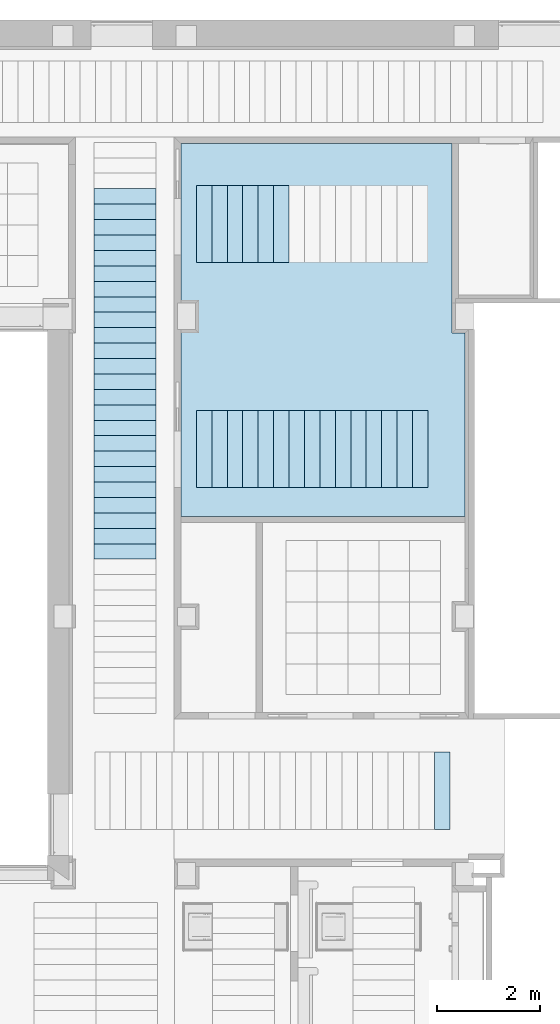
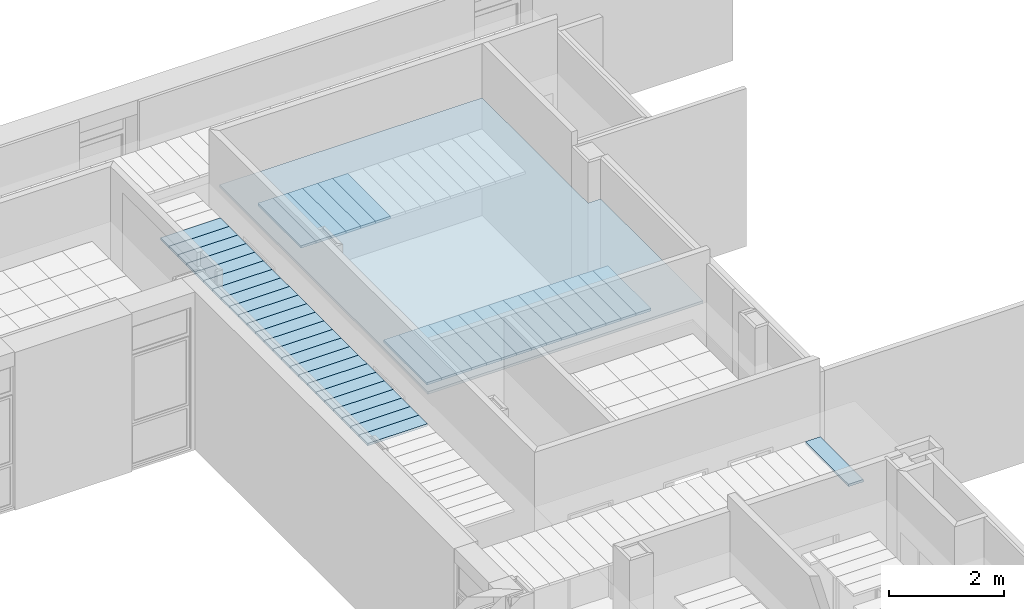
# One storey, part 12 of 60: 47 slabs.
"""IFC2X3 building model written with IfcOpenShell, lengths in millimetres."""

from ifc_helpers import new_model, entity, si_unit, converted_unit, derived_unit, money_unit, direction, frame, origin_with_axes, place, context, subcontext, project, spatial, polyline, outline, extrude, material, layer, layer_set, layer_usage, type_object, element, save


model = new_model("IFC2X3")

# Units and contexts
model_context = context("Model", 3, precision=0.01, world=origin_with_axes(), true_north=direction((0.0, 1.0)))
body_context = subcontext(model_context, "Body", "Model", "MODEL_VIEW")
ifc_project = project(units=[si_unit("LENGTHUNIT", "METRE", prefix="MILLI"), si_unit("AREAUNIT", "SQUARE_METRE"), si_unit("VOLUMEUNIT", "CUBIC_METRE"), converted_unit("PLANEANGLEUNIT", "DEGREE", entity("IfcPlaneAngleMeasure", 0.0174532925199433), si_unit("PLANEANGLEUNIT", "RADIAN"), dimensions=[0, 0, 0, 0, 0, 0, 0]), money_unit("USD"), converted_unit("TIMEUNIT", "Year", entity("IfcTimeMeasure", 31557600.0), si_unit("TIMEUNIT", "SECOND"), dimensions=[0, 0, 1, 0, 0, 0, 0]), si_unit("MASSUNIT", "GRAM", prefix="KILO"), si_unit("THERMODYNAMICTEMPERATUREUNIT", "DEGREE_CELSIUS"), si_unit("LUMINOUSINTENSITYUNIT", "LUMEN"), si_unit("ENERGYUNIT", "JOULE", prefix="MEGA"), derived_unit("THERMALCONDUCTANCEUNIT", [(si_unit("POWERUNIT", "WATT"), 1), (si_unit("LENGTHUNIT", "METRE"), -1), (si_unit("THERMODYNAMICTEMPERATUREUNIT", "KELVIN"), -1)]), derived_unit("SPECIFICHEATCAPACITYUNIT", [(si_unit("ENERGYUNIT", "JOULE"), 1), (si_unit("MASSUNIT", "GRAM", prefix="KILO"), -1), (si_unit("THERMODYNAMICTEMPERATUREUNIT", "KELVIN"), -1)]), derived_unit("MASSDENSITYUNIT", [(si_unit("MASSUNIT", "GRAM", prefix="KILO"), 1), (si_unit("VOLUMEUNIT", "CUBIC_METRE"), -1)])], contexts=[model_context])

# Site, building, storey
site_placement = place(None, origin_with_axes())
site = spatial("IfcSite", under=ifc_project, at=site_placement, Name="Sitio", CompositionType="ELEMENT")
building_placement = place(site_placement, origin_with_axes())
building = spatial("IfcBuilding", under=site, at=building_placement, Name="Construcción", CompositionType="ELEMENT")
storey_placement = place(building_placement, frame((0.0, 0.0, 3650.0), z_axis=(0.0, 0.0, 1.0), x_axis=(1.0, 0.0, 0.0)))
storey = spatial("IfcBuildingStorey", under=building, at=storey_placement, Name="PLANTA 2ª", CompositionType="ELEMENT", Elevation=3650.0)

# Slabs
ifc_material_1 = material(Name="ARQ_ME126_CelRas_Placa_Metallica")
ifc_layer_1 = layer(ifc_material_1, 50.0, ventilated="UNKNOWN")
ifc_layer_set_1 = layer_set([ifc_layer_1], Name="ARQ_ME126_CelRas_Placa_Metallica 50")
ifc_layer_usage_1 = layer_usage(ifc_layer_set_1, "AXIS3", "NEGATIVE", 50.0)
slab_type_1 = type_object("IfcSlabType", Name="ARQ_ME126_CelRas_Placa_Metallica 50", PredefinedType="NOTDEFINED")
slab_1_placement = place(storey_placement, frame((792.8909950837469, 1163.291547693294, 2500.0), z_axis=(0.0, 0.0, 1.0), x_axis=(1.0, 0.0, 0.0)))
element("IfcSlab", 1, at=slab_1_placement, inside=storey, type_object=slab_type_1, material=ifc_layer_usage_1, Name="SLA - 026", PredefinedType="NOTDEFINED", context=body_context, shape_type="SweptSolid", body=[
    extrude(outline(polyline([(0.0, 0.0), (0.0, -1500.0), (299.999999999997, -1500.0), (299.999999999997, 0.0), (0.0, 0.0)])), frame((0.0, 0.0, -50.0), z_axis=(0.0, 0.0, 1.0), x_axis=(1.0, 0.0, 0.0)), (0.0, 0.0, 1.0), 50.0),
])
ifc_layer_usage_2 = layer_usage(ifc_layer_set_1, "AXIS3", "NEGATIVE", 50.0)
slab_2_placement = place(storey_placement, frame((1092.890995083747, 1163.291547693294, 2500.0), z_axis=(0.0, 0.0, 1.0), x_axis=(1.0, 0.0, 0.0)))
element("IfcSlab", 2, at=slab_2_placement, inside=storey, type_object=slab_type_1, material=ifc_layer_usage_2, Name="SLA - 026", PredefinedType="NOTDEFINED", context=body_context, shape_type="SweptSolid", body=[
    extrude(outline(polyline([(0.0, 0.0), (0.0, -1500.0), (299.9999999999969, -1500.0), (299.9999999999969, 0.0), (0.0, 0.0)])), frame((0.0, 0.0, -50.0), z_axis=(0.0, 0.0, 1.0), x_axis=(1.0, 0.0, 0.0)), (0.0, 0.0, 1.0), 50.0),
])
ifc_layer_usage_3 = layer_usage(ifc_layer_set_1, "AXIS3", "NEGATIVE", 50.0)
slab_3_placement = place(storey_placement, frame((1692.890995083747, 1163.291547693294, 2500.0), z_axis=(0.0, 0.0, 1.0), x_axis=(1.0, 0.0, 0.0)))
element("IfcSlab", 3, at=slab_3_placement, inside=storey, type_object=slab_type_1, material=ifc_layer_usage_3, Name="SLA - 026", PredefinedType="NOTDEFINED", context=body_context, shape_type="SweptSolid", body=[
    extrude(outline(polyline([(0.0, 0.0), (0.0, -1500.0), (299.9999999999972, -1500.0), (299.9999999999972, 0.0), (0.0, 0.0)])), frame((0.0, 0.0, -50.0), z_axis=(0.0, 0.0, 1.0), x_axis=(1.0, 0.0, 0.0)), (0.0, 0.0, 1.0), 50.0),
])
ifc_layer_usage_4 = layer_usage(ifc_layer_set_1, "AXIS3", "NEGATIVE", 50.0)
slab_4_placement = place(storey_placement, frame((1392.890995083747, 1163.291547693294, 2500.0), z_axis=(0.0, 0.0, 1.0), x_axis=(1.0, 0.0, 0.0)))
element("IfcSlab", 4, at=slab_4_placement, inside=storey, type_object=slab_type_1, material=ifc_layer_usage_4, Name="SLA - 026", PredefinedType="NOTDEFINED", context=body_context, shape_type="SweptSolid", body=[
    extrude(outline(polyline([(0.0, 0.0), (0.0, -1500.0), (299.9999999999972, -1500.0), (299.9999999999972, 0.0), (0.0, 0.0)])), frame((0.0, 0.0, -50.0), z_axis=(0.0, 0.0, 1.0), x_axis=(1.0, 0.0, 0.0)), (0.0, 0.0, 1.0), 50.0),
])
ifc_layer_usage_5 = layer_usage(ifc_layer_set_1, "AXIS3", "NEGATIVE", 50.0)
slab_5_placement = place(storey_placement, frame((1992.890995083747, 1163.291547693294, 2500.0), z_axis=(0.0, 0.0, 1.0), x_axis=(1.0, 0.0, 0.0)))
element("IfcSlab", 5, at=slab_5_placement, inside=storey, type_object=slab_type_1, material=ifc_layer_usage_5, Name="SLA - 026", PredefinedType="NOTDEFINED", context=body_context, shape_type="SweptSolid", body=[
    extrude(outline(polyline([(0.0, 0.0), (0.0, -1500.0), (299.9999999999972, -1500.0), (299.9999999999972, 0.0), (0.0, 0.0)])), frame((0.0, 0.0, -50.0), z_axis=(0.0, 0.0, 1.0), x_axis=(1.0, 0.0, 0.0)), (0.0, 0.0, 1.0), 50.0),
])
ifc_layer_usage_6 = layer_usage(ifc_layer_set_1, "AXIS3", "NEGATIVE", 50.0)
slab_6_placement = place(storey_placement, frame((2292.890995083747, 1163.291547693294, 2500.0), z_axis=(0.0, 0.0, 1.0), x_axis=(1.0, 0.0, 0.0)))
element("IfcSlab", 6, at=slab_6_placement, inside=storey, type_object=slab_type_1, material=ifc_layer_usage_6, Name="SLA - 026", PredefinedType="NOTDEFINED", context=body_context, shape_type="SweptSolid", body=[
    extrude(outline(polyline([(0.0, 0.0), (0.0, -1500.0), (299.9999999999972, -1500.0), (299.9999999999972, 0.0), (0.0, 0.0)])), frame((0.0, 0.0, -50.0), z_axis=(0.0, 0.0, 1.0), x_axis=(1.0, 0.0, 0.0)), (0.0, 0.0, 1.0), 50.0),
])
ifc_layer_usage_7 = layer_usage(ifc_layer_set_1, "AXIS3", "NEGATIVE", 50.0)
slab_7_placement = place(storey_placement, frame((792.8909950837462, -3208.481340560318, 2250.0), z_axis=(0.0, 0.0, 1.0), x_axis=(1.0, 0.0, 0.0)))
element("IfcSlab", 7, at=slab_7_placement, inside=storey, type_object=slab_type_1, material=ifc_layer_usage_7, Name="SLA - 026", PredefinedType="NOTDEFINED", context=body_context, shape_type="SweptSolid", body=[
    extrude(outline(polyline([(0.0, 0.0), (0.0, -1500.0), (299.999999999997, -1500.0), (299.999999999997, 0.0), (0.0, 0.0)])), frame((0.0, 0.0, -50.0), z_axis=(0.0, 0.0, 1.0), x_axis=(1.0, 0.0, 0.0)), (0.0, 0.0, 1.0), 50.0),
])
ifc_layer_usage_8 = layer_usage(ifc_layer_set_1, "AXIS3", "NEGATIVE", 50.0)
slab_8_placement = place(storey_placement, frame((1092.890995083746, -3208.481340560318, 2250.0), z_axis=(0.0, 0.0, 1.0), x_axis=(1.0, 0.0, 0.0)))
element("IfcSlab", 8, at=slab_8_placement, inside=storey, type_object=slab_type_1, material=ifc_layer_usage_8, Name="SLA - 026", PredefinedType="NOTDEFINED", context=body_context, shape_type="SweptSolid", body=[
    extrude(outline(polyline([(0.0, 0.0), (0.0, -1500.0), (299.9999999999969, -1500.0), (299.9999999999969, 0.0), (0.0, 0.0)])), frame((0.0, 0.0, -50.0), z_axis=(0.0, 0.0, 1.0), x_axis=(1.0, 0.0, 0.0)), (0.0, 0.0, 1.0), 50.0),
])
ifc_layer_usage_9 = layer_usage(ifc_layer_set_1, "AXIS3", "NEGATIVE", 50.0)
slab_9_placement = place(storey_placement, frame((1392.890995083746, -3208.481340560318, 2250.0), z_axis=(0.0, 0.0, 1.0), x_axis=(1.0, 0.0, 0.0)))
element("IfcSlab", 9, at=slab_9_placement, inside=storey, type_object=slab_type_1, material=ifc_layer_usage_9, Name="SLA - 026", PredefinedType="NOTDEFINED", context=body_context, shape_type="SweptSolid", body=[
    extrude(outline(polyline([(0.0, 0.0), (0.0, -1500.0), (299.9999999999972, -1500.0), (299.9999999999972, 0.0), (0.0, 0.0)])), frame((0.0, 0.0, -50.0), z_axis=(0.0, 0.0, 1.0), x_axis=(1.0, 0.0, 0.0)), (0.0, 0.0, 1.0), 50.0),
])
ifc_layer_usage_10 = layer_usage(ifc_layer_set_1, "AXIS3", "NEGATIVE", 50.0)
slab_10_placement = place(storey_placement, frame((1692.890995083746, -3208.481340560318, 2250.0), z_axis=(0.0, 0.0, 1.0), x_axis=(1.0, 0.0, 0.0)))
element("IfcSlab", 10, at=slab_10_placement, inside=storey, type_object=slab_type_1, material=ifc_layer_usage_10, Name="SLA - 026", PredefinedType="NOTDEFINED", context=body_context, shape_type="SweptSolid", body=[
    extrude(outline(polyline([(0.0, 0.0), (0.0, -1500.0), (299.9999999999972, -1500.0), (299.9999999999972, 0.0), (0.0, 0.0)])), frame((0.0, 0.0, -50.0), z_axis=(0.0, 0.0, 1.0), x_axis=(1.0, 0.0, 0.0)), (0.0, 0.0, 1.0), 50.0),
])
ifc_layer_usage_11 = layer_usage(ifc_layer_set_1, "AXIS3", "NEGATIVE", 50.0)
slab_11_placement = place(storey_placement, frame((1992.890995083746, -3208.481340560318, 2250.0), z_axis=(0.0, 0.0, 1.0), x_axis=(1.0, 0.0, 0.0)))
element("IfcSlab", 11, at=slab_11_placement, inside=storey, type_object=slab_type_1, material=ifc_layer_usage_11, Name="SLA - 026", PredefinedType="NOTDEFINED", context=body_context, shape_type="SweptSolid", body=[
    extrude(outline(polyline([(0.0, 0.0), (0.0, -1500.0), (299.9999999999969, -1500.0), (299.9999999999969, 0.0), (0.0, 0.0)])), frame((0.0, 0.0, -50.0), z_axis=(0.0, 0.0, 1.0), x_axis=(1.0, 0.0, 0.0)), (0.0, 0.0, 1.0), 50.0),
])
ifc_layer_usage_12 = layer_usage(ifc_layer_set_1, "AXIS3", "NEGATIVE", 50.0)
slab_12_placement = place(storey_placement, frame((2292.890995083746, -3208.481340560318, 2250.0), z_axis=(0.0, 0.0, 1.0), x_axis=(1.0, 0.0, 0.0)))
element("IfcSlab", 12, at=slab_12_placement, inside=storey, type_object=slab_type_1, material=ifc_layer_usage_12, Name="SLA - 026", PredefinedType="NOTDEFINED", context=body_context, shape_type="SweptSolid", body=[
    extrude(outline(polyline([(0.0, 0.0), (0.0, -1500.0), (299.9999999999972, -1500.0), (299.9999999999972, 0.0), (0.0, 0.0)])), frame((0.0, 0.0, -50.0), z_axis=(0.0, 0.0, 1.0), x_axis=(1.0, 0.0, 0.0)), (0.0, 0.0, 1.0), 50.0),
])
ifc_layer_usage_13 = layer_usage(ifc_layer_set_1, "AXIS3", "NEGATIVE", 50.0)
slab_13_placement = place(storey_placement, frame((2592.890995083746, -3208.481340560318, 2250.0), z_axis=(0.0, 0.0, 1.0), x_axis=(1.0, 0.0, 0.0)))
element("IfcSlab", 13, at=slab_13_placement, inside=storey, type_object=slab_type_1, material=ifc_layer_usage_13, Name="SLA - 026", PredefinedType="NOTDEFINED", context=body_context, shape_type="SweptSolid", body=[
    extrude(outline(polyline([(0.0, 0.0), (0.0, -1500.0), (299.9999999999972, -1500.0), (299.9999999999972, 0.0), (0.0, 0.0)])), frame((0.0, 0.0, -50.0), z_axis=(0.0, 0.0, 1.0), x_axis=(1.0, 0.0, 0.0)), (0.0, 0.0, 1.0), 50.0),
])
ifc_layer_usage_14 = layer_usage(ifc_layer_set_1, "AXIS3", "NEGATIVE", 50.0)
slab_14_placement = place(storey_placement, frame((2892.890995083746, -3208.481340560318, 2250.0), z_axis=(0.0, 0.0, 1.0), x_axis=(1.0, 0.0, 0.0)))
element("IfcSlab", 14, at=slab_14_placement, inside=storey, type_object=slab_type_1, material=ifc_layer_usage_14, Name="SLA - 026", PredefinedType="NOTDEFINED", context=body_context, shape_type="SweptSolid", body=[
    extrude(outline(polyline([(0.0, 0.0), (0.0, -1500.0), (299.9999999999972, -1500.0), (299.9999999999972, 0.0), (0.0, 0.0)])), frame((0.0, 0.0, -50.0), z_axis=(0.0, 0.0, 1.0), x_axis=(1.0, 0.0, 0.0)), (0.0, 0.0, 1.0), 50.0),
])
ifc_layer_usage_15 = layer_usage(ifc_layer_set_1, "AXIS3", "NEGATIVE", 50.0)
slab_15_placement = place(storey_placement, frame((3192.890995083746, -3208.481340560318, 2250.0), z_axis=(0.0, 0.0, 1.0), x_axis=(1.0, 0.0, 0.0)))
element("IfcSlab", 15, at=slab_15_placement, inside=storey, type_object=slab_type_1, material=ifc_layer_usage_15, Name="SLA - 026", PredefinedType="NOTDEFINED", context=body_context, shape_type="SweptSolid", body=[
    extrude(outline(polyline([(0.0, 0.0), (0.0, -1500.0), (299.9999999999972, -1500.0), (299.9999999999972, 0.0), (0.0, 0.0)])), frame((0.0, 0.0, -50.0), z_axis=(0.0, 0.0, 1.0), x_axis=(1.0, 0.0, 0.0)), (0.0, 0.0, 1.0), 50.0),
])
ifc_layer_usage_16 = layer_usage(ifc_layer_set_1, "AXIS3", "NEGATIVE", 50.0)
slab_16_placement = place(storey_placement, frame((3492.890995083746, -3208.481340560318, 2250.0), z_axis=(0.0, 0.0, 1.0), x_axis=(1.0, 0.0, 0.0)))
element("IfcSlab", 16, at=slab_16_placement, inside=storey, type_object=slab_type_1, material=ifc_layer_usage_16, Name="SLA - 026", PredefinedType="NOTDEFINED", context=body_context, shape_type="SweptSolid", body=[
    extrude(outline(polyline([(0.0, 0.0), (0.0, -1500.0), (299.9999999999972, -1500.0), (299.9999999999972, 0.0), (0.0, 0.0)])), frame((0.0, 0.0, -50.0), z_axis=(0.0, 0.0, 1.0), x_axis=(1.0, 0.0, 0.0)), (0.0, 0.0, 1.0), 50.0),
])
ifc_layer_usage_17 = layer_usage(ifc_layer_set_1, "AXIS3", "NEGATIVE", 50.0)
slab_17_placement = place(storey_placement, frame((3792.890995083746, -3208.481340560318, 2250.0), z_axis=(0.0, 0.0, 1.0), x_axis=(1.0, 0.0, 0.0)))
element("IfcSlab", 17, at=slab_17_placement, inside=storey, type_object=slab_type_1, material=ifc_layer_usage_17, Name="SLA - 026", PredefinedType="NOTDEFINED", context=body_context, shape_type="SweptSolid", body=[
    extrude(outline(polyline([(0.0, 0.0), (0.0, -1500.0), (299.9999999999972, -1500.0), (299.9999999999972, 0.0), (0.0, 0.0)])), frame((0.0, 0.0, -50.0), z_axis=(0.0, 0.0, 1.0), x_axis=(1.0, 0.0, 0.0)), (0.0, 0.0, 1.0), 50.0),
])
ifc_layer_usage_18 = layer_usage(ifc_layer_set_1, "AXIS3", "NEGATIVE", 50.0)
slab_18_placement = place(storey_placement, frame((4092.890995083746, -3208.481340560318, 2250.0), z_axis=(0.0, 0.0, 1.0), x_axis=(1.0, 0.0, 0.0)))
element("IfcSlab", 18, at=slab_18_placement, inside=storey, type_object=slab_type_1, material=ifc_layer_usage_18, Name="SLA - 026", PredefinedType="NOTDEFINED", context=body_context, shape_type="SweptSolid", body=[
    extrude(outline(polyline([(0.0, 0.0), (0.0, -1500.0), (299.9999999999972, -1500.0), (299.9999999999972, 0.0), (0.0, 0.0)])), frame((0.0, 0.0, -50.0), z_axis=(0.0, 0.0, 1.0), x_axis=(1.0, 0.0, 0.0)), (0.0, 0.0, 1.0), 50.0),
])
ifc_layer_usage_19 = layer_usage(ifc_layer_set_1, "AXIS3", "NEGATIVE", 50.0)
slab_19_placement = place(storey_placement, frame((4392.890995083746, -3208.481340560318, 2250.0), z_axis=(0.0, 0.0, 1.0), x_axis=(1.0, 0.0, 0.0)))
element("IfcSlab", 19, at=slab_19_placement, inside=storey, type_object=slab_type_1, material=ifc_layer_usage_19, Name="SLA - 026", PredefinedType="NOTDEFINED", context=body_context, shape_type="SweptSolid", body=[
    extrude(outline(polyline([(0.0, 0.0), (0.0, -1500.0), (299.9999999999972, -1500.0), (299.9999999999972, 0.0), (0.0, 0.0)])), frame((0.0, 0.0, -50.0), z_axis=(0.0, 0.0, 1.0), x_axis=(1.0, 0.0, 0.0)), (0.0, 0.0, 1.0), 50.0),
])
ifc_layer_usage_20 = layer_usage(ifc_layer_set_1, "AXIS3", "NEGATIVE", 50.0)
slab_20_placement = place(storey_placement, frame((4692.890995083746, -3208.481340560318, 2250.0), z_axis=(0.0, 0.0, 1.0), x_axis=(1.0, 0.0, 0.0)))
element("IfcSlab", 20, at=slab_20_placement, inside=storey, type_object=slab_type_1, material=ifc_layer_usage_20, Name="SLA - 026", PredefinedType="NOTDEFINED", context=body_context, shape_type="SweptSolid", body=[
    extrude(outline(polyline([(0.0, 0.0), (0.0, -1500.0), (299.9999999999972, -1500.0), (299.9999999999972, 0.0), (0.0, 0.0)])), frame((0.0, 0.0, -50.0), z_axis=(0.0, 0.0, 1.0), x_axis=(1.0, 0.0, 0.0)), (0.0, 0.0, 1.0), 50.0),
])
ifc_layer_usage_21 = layer_usage(ifc_layer_set_1, "AXIS3", "NEGATIVE", 50.0)
slab_21_placement = place(storey_placement, frame((4992.890995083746, -3208.481340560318, 2250.0), z_axis=(0.0, 0.0, 1.0), x_axis=(1.0, 0.0, 0.0)))
element("IfcSlab", 21, at=slab_21_placement, inside=storey, type_object=slab_type_1, material=ifc_layer_usage_21, Name="SLA - 026", PredefinedType="NOTDEFINED", context=body_context, shape_type="SweptSolid", body=[
    extrude(outline(polyline([(0.0, 0.0), (0.0, -1500.0), (299.9999999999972, -1500.0), (299.9999999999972, 0.0), (0.0, 0.0)])), frame((0.0, 0.0, -50.0), z_axis=(0.0, 0.0, 1.0), x_axis=(1.0, 0.0, 0.0)), (0.0, 0.0, 1.0), 50.0),
])
ifc_layer_usage_22 = layer_usage(ifc_layer_set_1, "AXIS3", "NEGATIVE", 50.0)
slab_22_placement = place(storey_placement, frame((5718.890995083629, -11348.19832695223, 2500.0), z_axis=(0.0, 0.0, 1.0), x_axis=(1.0, 0.0, 0.0)))
element("IfcSlab", 22, at=slab_22_placement, inside=storey, type_object=slab_type_1, material=ifc_layer_usage_22, Name="SLA - 026", PredefinedType="NOTDEFINED", context=body_context, shape_type="SweptSolid", body=[
    extrude(outline(polyline([(0.0, 0.0), (0.0, 1500.0), (-299.9999999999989, 1500.0), (-299.9999999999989, 0.0), (0.0, 0.0)])), frame((0.0, 0.0, -50.0), z_axis=(0.0, 0.0, 1.0), x_axis=(1.0, 0.0, 0.0)), (0.0, 0.0, 1.0), 50.0),
])
ifc_layer_usage_23 = layer_usage(ifc_layer_set_1, "AXIS3", "NEGATIVE", 50.0)
slab_23_placement = place(storey_placement, frame((-1192.609613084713, -6099.146944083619, 2500.0), z_axis=(0.0, 0.0, 1.0), x_axis=(1.0, 0.0, 0.0)))
element("IfcSlab", 23, at=slab_23_placement, inside=storey, type_object=slab_type_1, material=ifc_layer_usage_23, Name="SLA - 026", PredefinedType="NOTDEFINED", context=body_context, shape_type="SweptSolid", body=[
    extrude(outline(polyline([(0.0, 0.0), (1199.999999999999, 0.0), (1199.999999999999, 299.9999999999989), (0.0, 299.9999999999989), (0.0, 0.0)])), frame((0.0, 0.0, -50.0), z_axis=(0.0, 0.0, 1.0), x_axis=(1.0, 0.0, 0.0)), (0.0, 0.0, 1.0), 50.0),
])
ifc_layer_usage_24 = layer_usage(ifc_layer_set_1, "AXIS3", "NEGATIVE", 50.0)
slab_24_placement = place(storey_placement, frame((-1192.609613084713, -5799.146944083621, 2500.0), z_axis=(0.0, 0.0, 1.0), x_axis=(1.0, 0.0, 0.0)))
element("IfcSlab", 24, at=slab_24_placement, inside=storey, type_object=slab_type_1, material=ifc_layer_usage_24, Name="SLA - 026", PredefinedType="NOTDEFINED", context=body_context, shape_type="SweptSolid", body=[
    extrude(outline(polyline([(0.0, 0.0), (1199.999999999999, 0.0), (1199.999999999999, 299.9999999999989), (0.0, 299.9999999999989), (0.0, 0.0)])), frame((0.0, 0.0, -50.0), z_axis=(0.0, 0.0, 1.0), x_axis=(1.0, 0.0, 0.0)), (0.0, 0.0, 1.0), 50.0),
])
ifc_layer_usage_25 = layer_usage(ifc_layer_set_1, "AXIS3", "NEGATIVE", 50.0)
slab_25_placement = place(storey_placement, frame((-1192.609613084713, -5499.14694408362, 2500.0), z_axis=(0.0, 0.0, 1.0), x_axis=(1.0, 0.0, 0.0)))
element("IfcSlab", 25, at=slab_25_placement, inside=storey, type_object=slab_type_1, material=ifc_layer_usage_25, Name="SLA - 026", PredefinedType="NOTDEFINED", context=body_context, shape_type="SweptSolid", body=[
    extrude(outline(polyline([(0.0, 0.0), (1199.999999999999, 0.0), (1199.999999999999, 299.9999999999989), (0.0, 299.9999999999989), (0.0, 0.0)])), frame((0.0, 0.0, -50.0), z_axis=(0.0, 0.0, 1.0), x_axis=(1.0, 0.0, 0.0)), (0.0, 0.0, 1.0), 50.0),
])
ifc_layer_usage_26 = layer_usage(ifc_layer_set_1, "AXIS3", "NEGATIVE", 50.0)
slab_26_placement = place(storey_placement, frame((-1192.609613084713, -5199.146944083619, 2500.0), z_axis=(0.0, 0.0, 1.0), x_axis=(1.0, 0.0, 0.0)))
element("IfcSlab", 26, at=slab_26_placement, inside=storey, type_object=slab_type_1, material=ifc_layer_usage_26, Name="SLA - 026", PredefinedType="NOTDEFINED", context=body_context, shape_type="SweptSolid", body=[
    extrude(outline(polyline([(0.0, 0.0), (1199.999999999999, 0.0), (1199.999999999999, 299.9999999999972), (0.0, 299.9999999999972), (0.0, 0.0)])), frame((0.0, 0.0, -50.0), z_axis=(0.0, 0.0, 1.0), x_axis=(1.0, 0.0, 0.0)), (0.0, 0.0, 1.0), 50.0),
])
ifc_layer_usage_27 = layer_usage(ifc_layer_set_1, "AXIS3", "NEGATIVE", 50.0)
slab_27_placement = place(storey_placement, frame((-1192.609613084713, -4599.146944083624, 2500.0), z_axis=(0.0, 0.0, 1.0), x_axis=(1.0, 0.0, 0.0)))
element("IfcSlab", 27, at=slab_27_placement, inside=storey, type_object=slab_type_1, material=ifc_layer_usage_27, Name="SLA - 026", PredefinedType="NOTDEFINED", context=body_context, shape_type="SweptSolid", body=[
    extrude(outline(polyline([(0.0, 0.0), (1199.999999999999, 0.0), (1199.999999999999, 299.9999999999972), (0.0, 299.9999999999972), (0.0, 0.0)])), frame((0.0, 0.0, -50.0), z_axis=(0.0, 0.0, 1.0), x_axis=(1.0, 0.0, 0.0)), (0.0, 0.0, 1.0), 50.0),
])
ifc_layer_usage_28 = layer_usage(ifc_layer_set_1, "AXIS3", "NEGATIVE", 50.0)
slab_28_placement = place(storey_placement, frame((-1192.609613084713, -3999.146944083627, 2500.0), z_axis=(0.0, 0.0, 1.0), x_axis=(1.0, 0.0, 0.0)))
element("IfcSlab", 28, at=slab_28_placement, inside=storey, type_object=slab_type_1, material=ifc_layer_usage_28, Name="SLA - 026", PredefinedType="NOTDEFINED", context=body_context, shape_type="SweptSolid", body=[
    extrude(outline(polyline([(0.0, 0.0), (1199.999999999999, 0.0), (1199.999999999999, 299.9999999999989), (0.0, 299.9999999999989), (0.0, 0.0)])), frame((0.0, 0.0, -50.0), z_axis=(0.0, 0.0, 1.0), x_axis=(1.0, 0.0, 0.0)), (0.0, 0.0, 1.0), 50.0),
])
ifc_layer_usage_29 = layer_usage(ifc_layer_set_1, "AXIS3", "NEGATIVE", 50.0)
slab_29_placement = place(storey_placement, frame((-1192.609613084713, -3699.146944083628, 2500.0), z_axis=(0.0, 0.0, 1.0), x_axis=(1.0, 0.0, 0.0)))
element("IfcSlab", 29, at=slab_29_placement, inside=storey, type_object=slab_type_1, material=ifc_layer_usage_29, Name="SLA - 026", PredefinedType="NOTDEFINED", context=body_context, shape_type="SweptSolid", body=[
    extrude(outline(polyline([(0.0, 0.0), (1199.999999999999, 0.0), (1199.999999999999, 299.9999999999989), (0.0, 299.9999999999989), (0.0, 0.0)])), frame((0.0, 0.0, -50.0), z_axis=(0.0, 0.0, 1.0), x_axis=(1.0, 0.0, 0.0)), (0.0, 0.0, 1.0), 50.0),
])
ifc_layer_usage_30 = layer_usage(ifc_layer_set_1, "AXIS3", "NEGATIVE", 50.0)
slab_30_placement = place(storey_placement, frame((-1192.609613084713, -3399.146944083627, 2500.0), z_axis=(0.0, 0.0, 1.0), x_axis=(1.0, 0.0, 0.0)))
element("IfcSlab", 30, at=slab_30_placement, inside=storey, type_object=slab_type_1, material=ifc_layer_usage_30, Name="SLA - 026", PredefinedType="NOTDEFINED", context=body_context, shape_type="SweptSolid", body=[
    extrude(outline(polyline([(0.0, 0.0), (1199.999999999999, 0.0), (1199.999999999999, 299.9999999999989), (0.0, 299.9999999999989), (0.0, 0.0)])), frame((0.0, 0.0, -50.0), z_axis=(0.0, 0.0, 1.0), x_axis=(1.0, 0.0, 0.0)), (0.0, 0.0, 1.0), 50.0),
])
ifc_layer_usage_31 = layer_usage(ifc_layer_set_1, "AXIS3", "NEGATIVE", 50.0)
slab_31_placement = place(storey_placement, frame((-1192.609613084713, -3099.146944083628, 2500.0), z_axis=(0.0, 0.0, 1.0), x_axis=(1.0, 0.0, 0.0)))
element("IfcSlab", 31, at=slab_31_placement, inside=storey, type_object=slab_type_1, material=ifc_layer_usage_31, Name="SLA - 026", PredefinedType="NOTDEFINED", context=body_context, shape_type="SweptSolid", body=[
    extrude(outline(polyline([(0.0, 0.0), (1199.999999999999, 0.0), (1199.999999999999, 299.9999999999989), (0.0, 299.9999999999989), (0.0, 0.0)])), frame((0.0, 0.0, -50.0), z_axis=(0.0, 0.0, 1.0), x_axis=(1.0, 0.0, 0.0)), (0.0, 0.0, 1.0), 50.0),
])
ifc_layer_usage_32 = layer_usage(ifc_layer_set_1, "AXIS3", "NEGATIVE", 50.0)
slab_32_placement = place(storey_placement, frame((-1192.609613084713, -4299.146944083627, 2500.0), z_axis=(0.0, 0.0, 1.0), x_axis=(1.0, 0.0, 0.0)))
element("IfcSlab", 32, at=slab_32_placement, inside=storey, type_object=slab_type_1, material=ifc_layer_usage_32, Name="SLA - 026", PredefinedType="NOTDEFINED", context=body_context, shape_type="SweptSolid", body=[
    extrude(outline(polyline([(0.0, 0.0), (1199.999999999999, 0.0), (1199.999999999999, 299.9999999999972), (0.0, 299.9999999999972), (0.0, 0.0)])), frame((0.0, 0.0, -50.0), z_axis=(0.0, 0.0, 1.0), x_axis=(1.0, 0.0, 0.0)), (0.0, 0.0, 1.0), 50.0),
])
ifc_layer_usage_33 = layer_usage(ifc_layer_set_1, "AXIS3", "NEGATIVE", 50.0)
slab_33_placement = place(storey_placement, frame((-1192.609613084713, -2799.146944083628, 2500.0), z_axis=(0.0, 0.0, 1.0), x_axis=(1.0, 0.0, 0.0)))
element("IfcSlab", 33, at=slab_33_placement, inside=storey, type_object=slab_type_1, material=ifc_layer_usage_33, Name="SLA - 026", PredefinedType="NOTDEFINED", context=body_context, shape_type="SweptSolid", body=[
    extrude(outline(polyline([(0.0, 0.0), (1199.999999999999, 0.0), (1199.999999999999, 299.9999999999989), (0.0, 299.9999999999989), (0.0, 0.0)])), frame((0.0, 0.0, -50.0), z_axis=(0.0, 0.0, 1.0), x_axis=(1.0, 0.0, 0.0)), (0.0, 0.0, 1.0), 50.0),
])
ifc_layer_usage_34 = layer_usage(ifc_layer_set_1, "AXIS3", "NEGATIVE", 50.0)
slab_34_placement = place(storey_placement, frame((-1192.609613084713, -2499.146944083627, 2500.0), z_axis=(0.0, 0.0, 1.0), x_axis=(1.0, 0.0, 0.0)))
element("IfcSlab", 34, at=slab_34_placement, inside=storey, type_object=slab_type_1, material=ifc_layer_usage_34, Name="SLA - 026", PredefinedType="NOTDEFINED", context=body_context, shape_type="SweptSolid", body=[
    extrude(outline(polyline([(0.0, 0.0), (1199.999999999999, 0.0), (1199.999999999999, 299.9999999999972), (0.0, 299.9999999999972), (0.0, 0.0)])), frame((0.0, 0.0, -50.0), z_axis=(0.0, 0.0, 1.0), x_axis=(1.0, 0.0, 0.0)), (0.0, 0.0, 1.0), 50.0),
])
ifc_layer_usage_35 = layer_usage(ifc_layer_set_1, "AXIS3", "NEGATIVE", 50.0)
slab_35_placement = place(storey_placement, frame((-1192.609613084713, -2199.146944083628, 2500.0), z_axis=(0.0, 0.0, 1.0), x_axis=(1.0, 0.0, 0.0)))
element("IfcSlab", 35, at=slab_35_placement, inside=storey, type_object=slab_type_1, material=ifc_layer_usage_35, Name="SLA - 026", PredefinedType="NOTDEFINED", context=body_context, shape_type="SweptSolid", body=[
    extrude(outline(polyline([(0.0, 0.0), (1199.999999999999, 0.0), (1199.999999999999, 299.9999999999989), (0.0, 299.9999999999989), (0.0, 0.0)])), frame((0.0, 0.0, -50.0), z_axis=(0.0, 0.0, 1.0), x_axis=(1.0, 0.0, 0.0)), (0.0, 0.0, 1.0), 50.0),
])
ifc_layer_usage_36 = layer_usage(ifc_layer_set_1, "AXIS3", "NEGATIVE", 50.0)
slab_36_placement = place(storey_placement, frame((-1192.609613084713, -1899.146944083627, 2500.0), z_axis=(0.0, 0.0, 1.0), x_axis=(1.0, 0.0, 0.0)))
element("IfcSlab", 36, at=slab_36_placement, inside=storey, type_object=slab_type_1, material=ifc_layer_usage_36, Name="SLA - 026", PredefinedType="NOTDEFINED", context=body_context, shape_type="SweptSolid", body=[
    extrude(outline(polyline([(0.0, 0.0), (1199.999999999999, 0.0), (1199.999999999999, 299.9999999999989), (0.0, 299.9999999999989), (0.0, 0.0)])), frame((0.0, 0.0, -50.0), z_axis=(0.0, 0.0, 1.0), x_axis=(1.0, 0.0, 0.0)), (0.0, 0.0, 1.0), 50.0),
])
ifc_layer_usage_37 = layer_usage(ifc_layer_set_1, "AXIS3", "NEGATIVE", 50.0)
slab_37_placement = place(storey_placement, frame((-1192.609613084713, -1299.146944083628, 2500.0), z_axis=(0.0, 0.0, 1.0), x_axis=(1.0, 0.0, 0.0)))
element("IfcSlab", 37, at=slab_37_placement, inside=storey, type_object=slab_type_1, material=ifc_layer_usage_37, Name="SLA - 026", PredefinedType="NOTDEFINED", context=body_context, shape_type="SweptSolid", body=[
    extrude(outline(polyline([(0.0, 0.0), (1199.999999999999, 0.0), (1199.999999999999, 299.9999999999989), (0.0, 299.9999999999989), (0.0, 0.0)])), frame((0.0, 0.0, -50.0), z_axis=(0.0, 0.0, 1.0), x_axis=(1.0, 0.0, 0.0)), (0.0, 0.0, 1.0), 50.0),
])
ifc_layer_usage_38 = layer_usage(ifc_layer_set_1, "AXIS3", "NEGATIVE", 50.0)
slab_38_placement = place(storey_placement, frame((-1192.609613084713, -999.146944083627, 2500.0), z_axis=(0.0, 0.0, 1.0), x_axis=(1.0, 0.0, 0.0)))
element("IfcSlab", 38, at=slab_38_placement, inside=storey, type_object=slab_type_1, material=ifc_layer_usage_38, Name="SLA - 026", PredefinedType="NOTDEFINED", context=body_context, shape_type="SweptSolid", body=[
    extrude(outline(polyline([(0.0, 0.0), (1199.999999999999, 0.0), (1199.999999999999, 299.9999999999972), (0.0, 299.9999999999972), (0.0, 0.0)])), frame((0.0, 0.0, -50.0), z_axis=(0.0, 0.0, 1.0), x_axis=(1.0, 0.0, 0.0)), (0.0, 0.0, 1.0), 50.0),
])
ifc_layer_usage_39 = layer_usage(ifc_layer_set_1, "AXIS3", "NEGATIVE", 50.0)
slab_39_placement = place(storey_placement, frame((-1192.609613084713, -4899.146944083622, 2500.0), z_axis=(0.0, 0.0, 1.0), x_axis=(1.0, 0.0, 0.0)))
element("IfcSlab", 39, at=slab_39_placement, inside=storey, type_object=slab_type_1, material=ifc_layer_usage_39, Name="SLA - 026", PredefinedType="NOTDEFINED", context=body_context, shape_type="SweptSolid", body=[
    extrude(outline(polyline([(0.0, 0.0), (1199.999999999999, 0.0), (1199.999999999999, 299.9999999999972), (0.0, 299.9999999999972), (0.0, 0.0)])), frame((0.0, 0.0, -50.0), z_axis=(0.0, 0.0, 1.0), x_axis=(1.0, 0.0, 0.0)), (0.0, 0.0, 1.0), 50.0),
])
ifc_layer_usage_40 = layer_usage(ifc_layer_set_1, "AXIS3", "NEGATIVE", 50.0)
slab_40_placement = place(storey_placement, frame((-1192.609613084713, -1599.146944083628, 2500.0), z_axis=(0.0, 0.0, 1.0), x_axis=(1.0, 0.0, 0.0)))
element("IfcSlab", 40, at=slab_40_placement, inside=storey, type_object=slab_type_1, material=ifc_layer_usage_40, Name="SLA - 026", PredefinedType="NOTDEFINED", context=body_context, shape_type="SweptSolid", body=[
    extrude(outline(polyline([(0.0, 0.0), (1199.999999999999, 0.0), (1199.999999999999, 299.9999999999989), (0.0, 299.9999999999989), (0.0, 0.0)])), frame((0.0, 0.0, -50.0), z_axis=(0.0, 0.0, 1.0), x_axis=(1.0, 0.0, 0.0)), (0.0, 0.0, 1.0), 50.0),
])
ifc_layer_usage_41 = layer_usage(ifc_layer_set_1, "AXIS3", "NEGATIVE", 50.0)
slab_41_placement = place(storey_placement, frame((-1192.609613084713, -399.1469440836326, 2500.0), z_axis=(0.0, 0.0, 1.0), x_axis=(1.0, 0.0, 0.0)))
element("IfcSlab", 41, at=slab_41_placement, inside=storey, type_object=slab_type_1, material=ifc_layer_usage_41, Name="SLA - 026", PredefinedType="NOTDEFINED", context=body_context, shape_type="SweptSolid", body=[
    extrude(outline(polyline([(0.0, 0.0), (1200.0, 0.0), (1200.0, 299.9999999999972), (0.0, 299.9999999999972), (0.0, 0.0)])), frame((0.0, 0.0, -50.0), z_axis=(0.0, 0.0, 1.0), x_axis=(1.0, 0.0, 0.0)), (0.0, 0.0, 1.0), 50.0),
])
ifc_layer_usage_42 = layer_usage(ifc_layer_set_1, "AXIS3", "NEGATIVE", 50.0)
slab_42_placement = place(storey_placement, frame((-1192.609613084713, -99.14694408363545, 2500.0), z_axis=(0.0, 0.0, 1.0), x_axis=(1.0, 0.0, 0.0)))
element("IfcSlab", 42, at=slab_42_placement, inside=storey, type_object=slab_type_1, material=ifc_layer_usage_42, Name="SLA - 026", PredefinedType="NOTDEFINED", context=body_context, shape_type="SweptSolid", body=[
    extrude(outline(polyline([(0.0, 0.0), (1200.0, 0.0), (1200.0, 299.9999999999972), (0.0, 299.9999999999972), (0.0, 0.0)])), frame((0.0, 0.0, -50.0), z_axis=(0.0, 0.0, 1.0), x_axis=(1.0, 0.0, 0.0)), (0.0, 0.0, 1.0), 50.0),
])
ifc_layer_usage_43 = layer_usage(ifc_layer_set_1, "AXIS3", "NEGATIVE", 50.0)
slab_43_placement = place(storey_placement, frame((-1192.609613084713, 200.8530559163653, 2500.0), z_axis=(0.0, 0.0, 1.0), x_axis=(1.0, 0.0, 0.0)))
element("IfcSlab", 43, at=slab_43_placement, inside=storey, type_object=slab_type_1, material=ifc_layer_usage_43, Name="SLA - 026", PredefinedType="NOTDEFINED", context=body_context, shape_type="SweptSolid", body=[
    extrude(outline(polyline([(0.0, 0.0), (1200.0, 0.0), (1200.0, 299.9999999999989), (0.0, 299.9999999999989), (0.0, 0.0)])), frame((0.0, 0.0, -50.0), z_axis=(0.0, 0.0, 1.0), x_axis=(1.0, 0.0, 0.0)), (0.0, 0.0, 1.0), 50.0),
])
ifc_layer_usage_44 = layer_usage(ifc_layer_set_1, "AXIS3", "NEGATIVE", 50.0)
slab_44_placement = place(storey_placement, frame((-1192.609613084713, 500.8530559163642, 2500.0), z_axis=(0.0, 0.0, 1.0), x_axis=(1.0, 0.0, 0.0)))
element("IfcSlab", 44, at=slab_44_placement, inside=storey, type_object=slab_type_1, material=ifc_layer_usage_44, Name="SLA - 026", PredefinedType="NOTDEFINED", context=body_context, shape_type="SweptSolid", body=[
    extrude(outline(polyline([(0.0, 0.0), (1200.0, 0.0), (1200.0, 299.9999999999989), (0.0, 299.9999999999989), (0.0, 0.0)])), frame((0.0, 0.0, -50.0), z_axis=(0.0, 0.0, 1.0), x_axis=(1.0, 0.0, 0.0)), (0.0, 0.0, 1.0), 50.0),
])
ifc_layer_usage_45 = layer_usage(ifc_layer_set_1, "AXIS3", "NEGATIVE", 50.0)
slab_45_placement = place(storey_placement, frame((-1192.609613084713, 800.853055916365, 2500.0), z_axis=(0.0, 0.0, 1.0), x_axis=(1.0, 0.0, 0.0)))
element("IfcSlab", 45, at=slab_45_placement, inside=storey, type_object=slab_type_1, material=ifc_layer_usage_45, Name="SLA - 026", PredefinedType="NOTDEFINED", context=body_context, shape_type="SweptSolid", body=[
    extrude(outline(polyline([(0.0, 0.0), (1200.0, 0.0), (1200.0, 299.9999999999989), (0.0, 299.9999999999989), (0.0, 0.0)])), frame((0.0, 0.0, -50.0), z_axis=(0.0, 0.0, 1.0), x_axis=(1.0, 0.0, 0.0)), (0.0, 0.0, 1.0), 50.0),
])
ifc_layer_usage_46 = layer_usage(ifc_layer_set_1, "AXIS3", "NEGATIVE", 50.0)
slab_46_placement = place(storey_placement, frame((-1192.609613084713, -699.1469440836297, 2500.0), z_axis=(0.0, 0.0, 1.0), x_axis=(1.0, 0.0, 0.0)))
element("IfcSlab", 46, at=slab_46_placement, inside=storey, type_object=slab_type_1, material=ifc_layer_usage_46, Name="SLA - 026", PredefinedType="NOTDEFINED", context=body_context, shape_type="SweptSolid", body=[
    extrude(outline(polyline([(0.0, 0.0), (1200.0, 0.0), (1200.0, 299.9999999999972), (0.0, 299.9999999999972), (0.0, 0.0)])), frame((0.0, 0.0, -50.0), z_axis=(0.0, 0.0, 1.0), x_axis=(1.0, 0.0, 0.0)), (0.0, 0.0, 1.0), 50.0),
])
ifc_material_2 = material(Name="ARQ_CG064_CelRas_Guix_Continu")
ifc_layer_2 = layer(ifc_material_2, 53.0, ventilated="UNKNOWN")
ifc_layer_set_2 = layer_set([ifc_layer_2], Name="ARQ_CG064_CelRas_Guix_Continu 53")
ifc_layer_usage_47 = layer_usage(ifc_layer_set_2, "AXIS3", "NEGATIVE", 53.0)
slab_type_2 = type_object("IfcSlabType", Name="ARQ_CG064_CelRas_Guix_Continu 53", PredefinedType="NOTDEFINED")
slab_47_placement = place(storey_placement, frame((492.890995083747, -5267.324539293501, 2500.0), z_axis=(0.0, 0.0, 1.0), x_axis=(1.0, 0.0, 0.0)))
element("IfcSlab", 47, at=slab_47_placement, inside=storey, type_object=slab_type_2, material=ifc_layer_usage_47, Name="SLA - 015", PredefinedType="NOTDEFINED", context=body_context, shape_type="SweptSolid", body=[
    extrude(outline(polyline([(0.0, 0.0), (5523.21485947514, 0.0), (5523.21485947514, 3562.348715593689), (5269.999999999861, 3562.348715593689), (5269.999999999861, 7242.879410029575), (0.0, 7242.879410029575), (0.0, 0.0)])), frame((0.0, 0.0, -53.0), z_axis=(0.0, 0.0, 1.0), x_axis=(1.0, 0.0, 0.0)), (0.0, 0.0, 1.0), 53.0),
])

save(model, "model.ifc")
